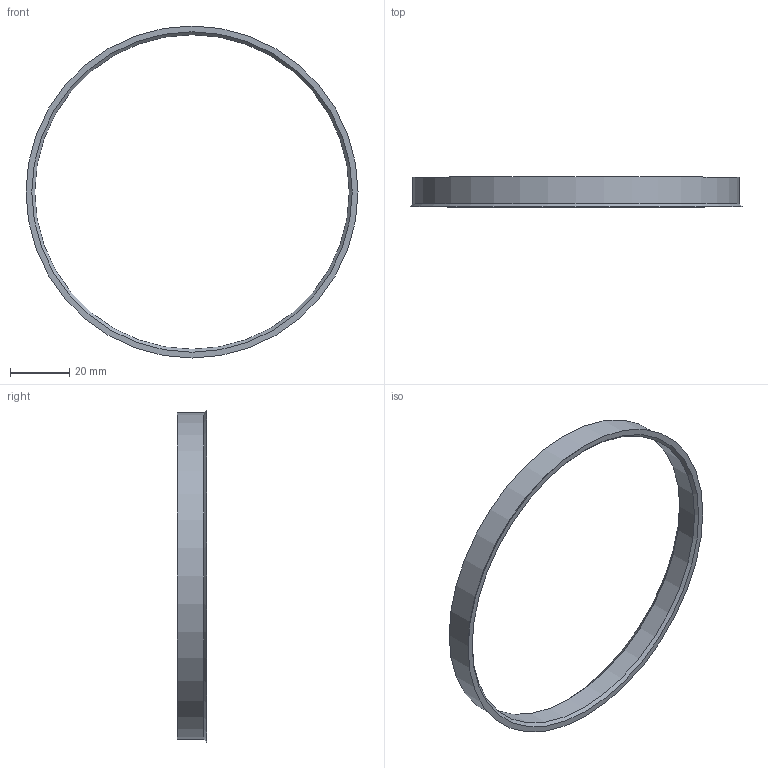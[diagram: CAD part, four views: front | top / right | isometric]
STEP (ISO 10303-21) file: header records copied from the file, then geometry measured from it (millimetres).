
FILE_DESCRIPTION(/* description */ (''),/* implementation_level */ '2;1');
FILE_NAME(/* name */ 'G:\CAD Library\Team Tasks\DIPP\11th Intake\Bradley Coles\Design Drafting\Random\Hub Rings\HubRings.stp\HubRing_110-106.1.stp',/* time_stamp */ '2025-07-22T13:40:29+08:00',/* author */ ('BCOLES'),/* organization */ (''),/* preprocessor_version */ 'ST-DEVELOPER v18.1',/* originating_system */ 'Autodesk Inventor 2022',/* authorisation */ '');
FILE_SCHEMA (('AUTOMOTIVE_DESIGN { 1 0 10303 214 3 1 1 }'));
Length unit declared in the file: millimetre
Products named in the file (1): HubRing_110-106.1
Bounding box: 112 x 10 x 112 mm (x, y, z)
Volume: 5983.9 mm3; surface area: 8039.4 mm2
Topology: 1 solids, 1 shells, 6 faces, 13 edges, 8 vertices
Faces by surface type: cone 3, cylinder 2, plane 1
Full cylindrical faces by diameter (mm): 106.1 x1, 110 x1
Entity records: 216 total; most frequent: DIRECTION 35, CARTESIAN_POINT 28, ORIENTED_EDGE 26, AXIS2_PLACEMENT_3D 15, EDGE_CURVE 13, CIRCLE 8, VERTEX_POINT 8, EDGE_LOOP 7
